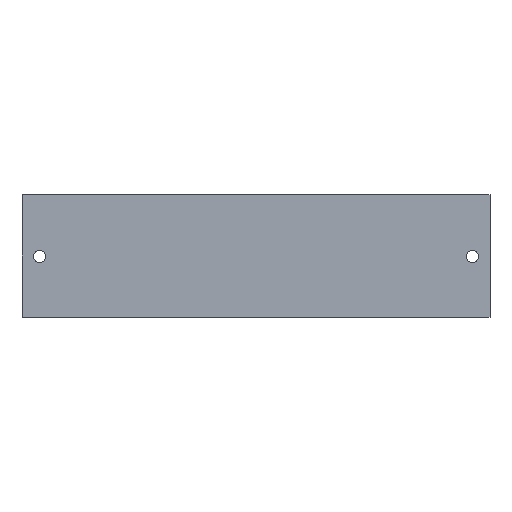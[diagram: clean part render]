
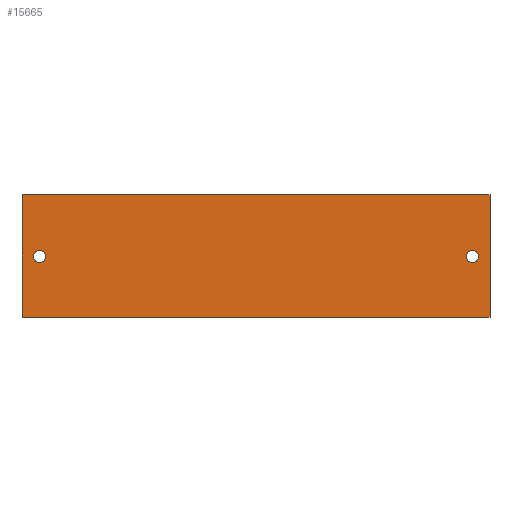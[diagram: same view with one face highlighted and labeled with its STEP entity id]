
A CAD part, front view. The second image highlights one B-rep face of the part: STEP entity #15665.
In plain terms, the highlighted planar face has unit normal (0, -1, 0).
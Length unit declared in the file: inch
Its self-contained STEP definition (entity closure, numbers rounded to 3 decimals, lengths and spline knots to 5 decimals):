
#301 = ORIENTED_EDGE ( 'NONE', *, *, #1431, .T. ) ;
#507 = DIRECTION ( 'NONE',  ( 1., 0., 0. ) ) ;
#544 = EDGE_LOOP ( 'NONE', ( #1334, #301 ) ) ;
#572 = CARTESIAN_POINT ( 'NONE',  ( -12.75, 0., -1.75 ) ) ;
#584 = CARTESIAN_POINT ( 'NONE',  ( -13.25, 0., 0. ) ) ;
#635 = CARTESIAN_POINT ( 'NONE',  ( -12.75, 0., -1.578 ) ) ;
#990 = LINE ( 'NONE', #584, #14432 ) ;
#1046 = VERTEX_POINT ( 'NONE', #14170 ) ;
#1227 = VERTEX_POINT ( 'NONE', #11609 ) ;
#1334 = ORIENTED_EDGE ( 'NONE', *, *, #9608, .T. ) ;
#1346 = EDGE_CURVE ( 'NONE', #1046, #6532, #5220, .T. ) ;
#1431 = EDGE_CURVE ( 'NONE', #9446, #7030, #15842, .T. ) ;
#1654 = VERTEX_POINT ( 'NONE', #5004 ) ;
#1938 = DIRECTION ( 'NONE',  ( 0., 0., 1. ) ) ;
#1981 = CARTESIAN_POINT ( 'NONE',  ( -13.25, 0., 0. ) ) ;
#2393 = FACE_BOUND ( 'NONE', #5252, .T. ) ;
#3858 = AXIS2_PLACEMENT_3D ( 'NONE', #1981, #13359, #6107 ) ;
#4226 = CARTESIAN_POINT ( 'NONE',  ( -13.25, 0., 0. ) ) ;
#4733 = PLANE ( 'NONE',  #3858 ) ;
#5004 = CARTESIAN_POINT ( 'NONE',  ( 0., 0., -3.466 ) ) ;
#5064 = VECTOR ( 'NONE', #11092, 39.37008 ) ;
#5220 = CIRCLE ( 'NONE', #14346, 0.172 ) ;
#5235 = ORIENTED_EDGE ( 'NONE', *, *, #9654, .T. ) ;
#5252 = EDGE_LOOP ( 'NONE', ( #12730, #13087 ) ) ;
#6107 = DIRECTION ( 'NONE',  ( 0., 0., -1. ) ) ;
#6282 = CARTESIAN_POINT ( 'NONE',  ( -13.25, 0., 0. ) ) ;
#6532 = VERTEX_POINT ( 'NONE', #635 ) ;
#6554 = VERTEX_POINT ( 'NONE', #14343 ) ;
#7030 = VERTEX_POINT ( 'NONE', #13537 ) ;
#7387 = DIRECTION ( 'NONE',  ( 0., 1., 0. ) ) ;
#8274 = ORIENTED_EDGE ( 'NONE', *, *, #10058, .F. ) ;
#8361 = DIRECTION ( 'NONE',  ( 0., 0., 1. ) ) ;
#8373 = DIRECTION ( 'NONE',  ( 0., 1., 0. ) ) ;
#8379 = CARTESIAN_POINT ( 'NONE',  ( -0.5, 0., -1.75 ) ) ;
#8476 = LINE ( 'NONE', #6282, #11662 ) ;
#8490 = LINE ( 'NONE', #8591, #5064 ) ;
#8591 = CARTESIAN_POINT ( 'NONE',  ( 0., 0., 0. ) ) ;
#8800 = AXIS2_PLACEMENT_3D ( 'NONE', #14515, #7387, #15689 ) ;
#8830 = AXIS2_PLACEMENT_3D ( 'NONE', #572, #9791, #1938 ) ;
#9241 = LINE ( 'NONE', #12094, #12399 ) ;
#9344 = FACE_BOUND ( 'NONE', #544, .T. ) ;
#9446 = VERTEX_POINT ( 'NONE', #10589 ) ;
#9459 = VERTEX_POINT ( 'NONE', #4226 ) ;
#9583 = EDGE_CURVE ( 'NONE', #1227, #1654, #9241, .T. ) ;
#9586 = EDGE_CURVE ( 'NONE', #6532, #1046, #9639, .T. ) ;
#9608 = EDGE_CURVE ( 'NONE', #7030, #9446, #15191, .T. ) ;
#9636 = EDGE_CURVE ( 'NONE', #6554, #1654, #8490, .T. ) ;
#9639 = CIRCLE ( 'NONE', #8830, 0.172 ) ;
#9654 = EDGE_CURVE ( 'NONE', #9459, #1227, #990, .T. ) ;
#9791 = DIRECTION ( 'NONE',  ( 0., 1., 0. ) ) ;
#9805 = DIRECTION ( 'NONE',  ( 0., 0., -1. ) ) ;
#9853 = DIRECTION ( 'NONE',  ( 0., 0., 1. ) ) ;
#9873 = DIRECTION ( 'NONE',  ( 0., 1., 0. ) ) ;
#9877 = CARTESIAN_POINT ( 'NONE',  ( -12.75, 0., -1.75 ) ) ;
#10058 = EDGE_CURVE ( 'NONE', #9459, #6554, #8476, .T. ) ;
#10589 = CARTESIAN_POINT ( 'NONE',  ( -0.5, 0., -1.922 ) ) ;
#11092 = DIRECTION ( 'NONE',  ( 0., 0., -1. ) ) ;
#11609 = CARTESIAN_POINT ( 'NONE',  ( -13.25, 0., -3.466 ) ) ;
#11662 = VECTOR ( 'NONE', #13515, 39.37008 ) ;
#12094 = CARTESIAN_POINT ( 'NONE',  ( -13.25, 0., -3.466 ) ) ;
#12193 = EDGE_LOOP ( 'NONE', ( #13839, #8274, #5235, #15329 ) ) ;
#12399 = VECTOR ( 'NONE', #507, 39.37008 ) ;
#12730 = ORIENTED_EDGE ( 'NONE', *, *, #9586, .T. ) ;
#13087 = ORIENTED_EDGE ( 'NONE', *, *, #1346, .T. ) ;
#13359 = DIRECTION ( 'NONE',  ( 0., -1., 0. ) ) ;
#13515 = DIRECTION ( 'NONE',  ( 1., 0., 0. ) ) ;
#13537 = CARTESIAN_POINT ( 'NONE',  ( -0.5, 0., -1.578 ) ) ;
#13839 = ORIENTED_EDGE ( 'NONE', *, *, #9636, .F. ) ;
#14170 = CARTESIAN_POINT ( 'NONE',  ( -12.75, 0., -1.922 ) ) ;
#14343 = CARTESIAN_POINT ( 'NONE',  ( 0., 0., 0. ) ) ;
#14346 = AXIS2_PLACEMENT_3D ( 'NONE', #9877, #9873, #9853 ) ;
#14432 = VECTOR ( 'NONE', #9805, 39.37008 ) ;
#14515 = CARTESIAN_POINT ( 'NONE',  ( -0.5, 0., -1.75 ) ) ;
#14574 = AXIS2_PLACEMENT_3D ( 'NONE', #8379, #8373, #8361 ) ;
#14909 = FACE_OUTER_BOUND ( 'NONE', #12193, .T. ) ;
#15191 = CIRCLE ( 'NONE', #8800, 0.172 ) ;
#15329 = ORIENTED_EDGE ( 'NONE', *, *, #9583, .T. ) ;
#15665 = ADVANCED_FACE ( 'NONE', ( #2393, #9344, #14909 ), #4733, .T. ) ;
#15689 = DIRECTION ( 'NONE',  ( 0., 0., 1. ) ) ;
#15842 = CIRCLE ( 'NONE', #14574, 0.172 ) ;
